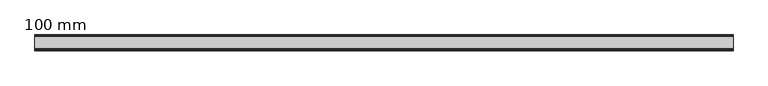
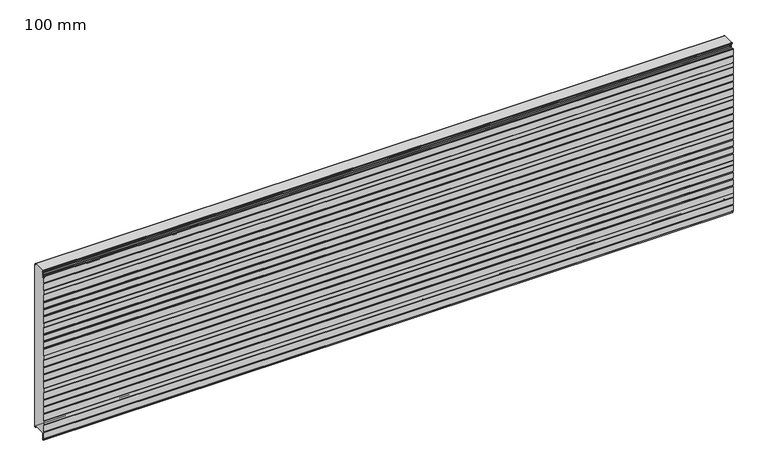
"""IFC4 building model written with IfcOpenShell, lengths in millimetres: plate geometry, HIANSA PANEL - H20.F02.002-PANELES DE FACHADA HORIZONTAL - PANEL PERFILADO - Panel de Muro Cortina : 100 mm."""

from ifc_helpers import new_model, si_unit, frame, origin, place, context, project, spatial, polyline, circle_curve, source, transform, mapped, element, save
from ifc_brep_helpers import plane_surface, cylinder_surface, revolved_surface, advanced_brep


def plate_100_mm_e56b490d(model_context):
    return source(origin(), model_context, "Body", "AdvancedBrep", [
        advanced_brep(
        [(-2200.0, -98.8752798, 1088.9050598), (-2200.0, -97.5170803, 1089.9655099), (-2200.0, -94.8776596, 1089.9655099), (-2200.0, -94.8776596, 1080.8), (-2200.0, -93.3776596, 1079.3), (-2200.0, -89.1276596, 1079.3), (-2200.0, -87.6276596, 1080.8), (-2200.0, -87.6276596, 1082.4013031), (-2200.0, -86.9880243, 1083.6300312), (-2200.0, -80.9305067, 1087.8715506), (-2200.0, -80.0776596, 1089.5098547), (-2200.0, -80.0776596, 1098.6062275), (-2200.0, -79.3889845, 1099.7990478), (-2200.0, -79.3889845, 1100.7990478), (-2200.0, -80.0776596, 1101.9918681), (-2200.0, -80.0776596, 1111.0896684), (-2200.0, -80.9305067, 1112.7279725), (-2200.0, -86.9880243, 1116.969492), (-2200.0, -87.6276596, 1118.19822), (-2200.0, -87.6276596, 1121.5805697), (-2200.0, -86.1276596, 1123.0805697), (-2200.0, -7.7494039, 1123.0810465), (-2200.0, -6.7486887, 1122.0803313), (-2200.0, -6.7486887, 1115.9337883), (-2200.0, -4.7472517, 1113.9323514), (-2200.0, -1.4941037, 1113.9323514), (-2200.0, -0.5, 1112.9382477), (-2200.0, -0.5, 1088.0627766), (-2200.0, -1.5005169, 1085.0504228), (-2200.0, -1.5005169, 1044.8881451), (-2200.0, -0.5, 1041.8865945), (-2200.0, -0.5, 997.0519734), (-2200.0, -1.5005169, 994.0504228), (-2200.0, -1.5005169, 953.8881451), (-2200.0, -0.5, 950.8865945), (-2200.0, -0.5, 906.0519734), (-2200.0, -1.5005169, 903.0504228), (-2200.0, -1.5005169, 862.8881451), (-2200.0, -0.5, 859.8865945), (-2200.0, -0.5, 815.0519734), (-2200.0, -1.5005169, 812.0504228), (-2200.0, -1.5005169, 771.8881451), (-2200.0, -0.5, 768.8865945), (-2200.0, -0.5, 724.0519734), (-2200.0, -1.5005169, 721.0504228), (-2200.0, -1.5005169, 680.8881451), (-2200.0, -0.5, 677.8865945), (-2200.0, -0.5, 633.0519734), (-2200.0, -1.5005169, 630.0504228), (-2200.0, -1.5005169, 589.8881451), (-2200.0, -0.5, 586.8865945), (-2200.0, -0.5, 542.0519734), (-2200.0, -1.5005169, 539.0504228), (-2200.0, -1.5005169, 498.8881451), (-2200.0, -0.5, 495.8865945), (-2200.0, -0.5, 451.0519734), (-2200.0, -1.5005169, 448.0504228), (-2200.0, -1.5005169, 407.8881451), (-2200.0, -0.5, 404.8865945), (-2200.0, -0.5, 360.0519734), (-2200.0, -1.5005169, 357.0504228), (-2200.0, -1.5005169, 316.8881451), (-2200.0, -0.5, 313.8865945), (-2200.0, -0.5, 269.0519734), (-2200.0, -1.5005169, 266.0504228), (-2200.0, -1.5005169, 225.8881451), (-2200.0, -0.5, 222.8865945), (-2200.0, -0.5, 178.0519734), (-2200.0, -1.5005169, 175.0504228), (-2200.0, -1.5005169, 134.8881451), (-2200.0, -0.5, 131.8865945), (-2200.0, -0.5, 87.0519734), (-2200.0, -1.5005169, 84.0504228), (-2200.0, -1.5005169, 43.8881451), (-2200.0, -0.5, 40.8962672), (-2200.0, -0.5, 15.9680961), (-2200.0, -1.5000258, 14.9680403), (-2200.0, -4.4999967, 14.9677262), (-2200.0, -5.5000043, 15.9677319), (-2200.0, -5.5004096, 23.5818123), (-2200.0, -7.5396439, 25.6210465), (-2200.0, -86.3470846, 25.6210465), (-2200.0, -88.8839497, 23.0841814), (-2200.0, -88.8839497, -19.2), (-2200.0, -93.6276596, -19.2), (-2200.0, -93.6276596, -10.5344901), (-2200.0, -95.1276596, -9.0344901), (-2200.0, -97.5178943, -9.0344901), (-2200.0, -98.8750825, -7.9748295), (-2200.0, -99.5, -5.4751593), (-2200.0, -99.5, 33.6239573), (-2200.0, -98.4846118, 37.6855101), (-2200.0, -99.5, 41.7470629), (-2200.0, -99.5, 84.8265935), (-2200.0, -98.5, 87.8265935), (-2200.0, -98.5, 113.1008712), (-2200.0, -99.5, 116.1008712), (-2200.0, -99.5, 159.1804017), (-2200.0, -98.4846118, 163.2419545), (-2200.0, -99.5, 167.3035073), (-2200.0, -99.5, 206.4026239), (-2200.0, -98.4846118, 210.4641767), (-2200.0, -99.5, 214.5257295), (-2200.0, -99.5, 253.6248461), (-2200.0, -98.4846118, 257.6863989), (-2200.0, -99.5, 261.7479517), (-2200.0, -99.5, 304.8274823), (-2200.0, -98.5, 307.8274823), (-2200.0, -98.5, 333.10176), (-2200.0, -99.5, 336.10176), (-2200.0, -99.5, 379.1812905), (-2200.0, -98.4846118, 383.2428433), (-2200.0, -99.5, 387.3043961), (-2200.0, -99.5, 426.4035127), (-2200.0, -98.4846118, 430.4650655), (-2200.0, -99.5, 434.5266183), (-2200.0, -99.5, 473.6257349), (-2200.0, -98.4846118, 477.6872877), (-2200.0, -99.5, 481.7488405), (-2200.0, -99.5, 524.8283711), (-2200.0, -98.5, 527.8283711), (-2200.0, -98.5, 553.1026488), (-2200.0, -99.5, 556.1026488), (-2200.0, -99.5, 599.1821793), (-2200.0, -98.4846118, 603.2437321), (-2200.0, -99.5, 607.3052849), (-2200.0, -99.5, 646.4044015), (-2200.0, -98.4846118, 650.4659543), (-2200.0, -99.5, 654.5275071), (-2200.0, -99.5, 693.6266237), (-2200.0, -98.4846118, 697.6881765), (-2200.0, -99.5, 701.7497293), (-2200.0, -99.5, 744.8292599), (-2200.0, -98.5, 747.8292599), (-2200.0, -98.5, 773.1035376), (-2200.0, -99.5, 776.1035376), (-2200.0, -99.5, 819.1830681), (-2200.0, -98.4846118, 823.2446209), (-2200.0, -99.5, 827.3061737), (-2200.0, -99.5, 866.4052903), (-2200.0, -98.4846118, 870.4668431), (-2200.0, -99.5, 874.5283959), (-2200.0, -99.5, 913.6275125), (-2200.0, -98.4846118, 917.6890653), (-2200.0, -99.5, 921.7506181), (-2200.0, -99.5, 964.8301487), (-2200.0, -98.5, 967.8301487), (-2200.0, -98.5, 993.1044264), (-2200.0, -99.5, 996.1044264), (-2200.0, -99.5, 1039.1839569), (-2200.0, -98.4846118, 1043.2455097), (-2200.0, -99.5, 1047.3070625), (-2200.0, -99.5, 1086.4061791), (2200.0, -98.8752798, 1088.9050598), (2200.0, -99.5, 1086.4061791), (2200.0, -99.5, 1047.3070625), (2200.0, -98.4846118, 1043.2455097), (2200.0, -99.5, 1039.1839569), (2200.0, -99.5, 996.1044264), (2200.0, -98.5, 993.1044264), (2200.0, -98.5, 967.8301487), (2200.0, -99.5, 964.8301487), (2200.0, -99.5, 921.7506181), (2200.0, -98.4846118, 917.6890653), (2200.0, -99.5, 913.6275125), (2200.0, -99.5, 874.5283959), (2200.0, -98.4846118, 870.4668431), (2200.0, -99.5, 866.4052903), (2200.0, -99.5, 827.3061737), (2200.0, -98.4846118, 823.2446209), (2200.0, -99.5, 819.1830681), (2200.0, -99.5, 776.1035376), (2200.0, -98.5, 773.1035376), (2200.0, -98.5, 747.8292599), (2200.0, -99.5, 744.8292599), (2200.0, -99.5, 701.7497293), (2200.0, -98.4846118, 697.6881765), (2200.0, -99.5, 693.6266237), (2200.0, -99.5, 654.5275071), (2200.0, -98.4846118, 650.4659543), (2200.0, -99.5, 646.4044015), (2200.0, -99.5, 607.3052849), (2200.0, -98.4846118, 603.2437321), (2200.0, -99.5, 599.1821793), (2200.0, -99.5, 556.1026488), (2200.0, -98.5, 553.1026488), (2200.0, -98.5, 527.8283711), (2200.0, -99.5, 524.8283711), (2200.0, -99.5, 481.7488405), (2200.0, -98.4846118, 477.6872877), (2200.0, -99.5, 473.6257349), (2200.0, -99.5, 434.5266183), (2200.0, -98.4846118, 430.4650655), (2200.0, -99.5, 426.4035127), (2200.0, -99.5, 387.3043961), (2200.0, -98.4846118, 383.2428433), (2200.0, -99.5, 379.1812905), (2200.0, -99.5, 336.10176), (2200.0, -98.5, 333.10176), (2200.0, -98.5, 307.8274823), (2200.0, -99.5, 304.8274823), (2200.0, -99.5, 261.7479517), (2200.0, -98.4846118, 257.6863989), (2200.0, -99.5, 253.6248461), (2200.0, -99.5, 214.5257295), (2200.0, -98.4846118, 210.4641767), (2200.0, -99.5, 206.4026239), (2200.0, -99.5, 167.3035073), (2200.0, -98.4846118, 163.2419545), (2200.0, -99.5, 159.1804017), (2200.0, -99.5, 116.1008712), (2200.0, -98.5, 113.1008712), (2200.0, -98.5, 87.8265935), (2200.0, -99.5, 84.8265935), (2200.0, -99.5, 41.7470629), (2200.0, -98.4846118, 37.6855101), (2200.0, -99.5, 33.6239573), (2200.0, -99.5, -5.4751593), (2200.0, -98.8750825, -7.9748295), (2200.0, -97.5178943, -9.0344901), (2200.0, -95.1276596, -9.0344901), (2200.0, -93.6276596, -10.5344901), (2200.0, -93.6276596, -19.2), (2200.0, -88.8839497, -19.2), (2200.0, -88.8839497, 23.0841814), (2200.0, -86.3470846, 25.6210465), (2200.0, -7.5396439, 25.6210465), (2200.0, -5.5004096, 23.5818123), (2200.0, -5.5004096, 15.9677319), (2200.0, -4.4999967, 14.9677262), (2200.0, -1.5000258, 14.9680403), (2200.0, -0.5, 15.9680961), (2200.0, -0.5, 40.8962672), (2200.0, -1.5005169, 43.8881451), (2200.0, -1.5005169, 84.0504228), (2200.0, -0.5, 87.0519734), (2200.0, -0.5, 131.8865945), (2200.0, -1.5005169, 134.8881451), (2200.0, -1.5005169, 175.0504228), (2200.0, -0.5, 178.0519734), (2200.0, -0.5, 222.8865945), (2200.0, -1.5005169, 225.8881451), (2200.0, -1.5005169, 266.0504228), (2200.0, -0.5, 269.0519734), (2200.0, -0.5, 313.8865945), (2200.0, -1.5005169, 316.8881451), (2200.0, -1.5005169, 357.0504228), (2200.0, -0.5, 360.0519734), (2200.0, -0.5, 404.8865945), (2200.0, -1.5005169, 407.8881451), (2200.0, -1.5005169, 448.0504228), (2200.0, -0.5, 451.0519734), (2200.0, -0.5, 495.8865945), (2200.0, -1.5005169, 498.8881451), (2200.0, -1.5005169, 539.0504228), (2200.0, -0.5, 542.0519734), (2200.0, -0.5, 586.8865945), (2200.0, -1.5005169, 589.8881451), (2200.0, -1.5005169, 630.0504228), (2200.0, -0.5, 633.0519734), (2200.0, -0.5, 677.8865945), (2200.0, -1.5005169, 680.8881451), (2200.0, -1.5005169, 721.0504228), (2200.0, -0.5, 724.0519734), (2200.0, -0.5, 768.8865945), (2200.0, -1.5005169, 771.8881451), (2200.0, -1.5005169, 812.0504228), (2200.0, -0.5, 815.0519734), (2200.0, -0.5, 859.8865945), (2200.0, -1.5005169, 862.8881451), (2200.0, -1.5005169, 903.0504228), (2200.0, -0.5, 906.0519734), (2200.0, -0.5, 950.8865945), (2200.0, -1.5005169, 953.8881451), (2200.0, -1.5005169, 994.0504228), (2200.0, -0.5, 997.0519734), (2200.0, -0.5, 1041.8865945), (2200.0, -1.5005169, 1044.8881451), (2200.0, -1.5005169, 1085.0504228), (2200.0, -0.5, 1088.0627766), (2200.0, -0.5, 1112.9382477), (2200.0, -1.4941037, 1113.9323514), (2200.0, -4.7472517, 1113.9323514), (2200.0, -6.7486887, 1115.9337883), (2200.0, -6.7486887, 1122.0803313), (2200.0, -7.7494039, 1123.0810465), (2200.0, -86.1276596, 1123.0810465), (2200.0, -87.6276596, 1121.5805697), (2200.0, -87.6276596, 1118.19822), (2200.0, -86.9880243, 1116.969492), (2200.0, -80.9305067, 1112.7279725), (2200.0, -80.0776596, 1111.0896684), (2200.0, -80.0776596, 1101.9918681), (2200.0, -79.3889845, 1100.7990478), (2200.0, -79.3889845, 1099.7990478), (2200.0, -80.0776596, 1098.6062275), (2200.0, -80.0776596, 1089.5098547), (2200.0, -80.9305067, 1087.8715506), (2200.0, -86.9880243, 1083.6300312), (2200.0, -87.6276596, 1082.4013031), (2200.0, -87.6276596, 1080.8), (2200.0, -89.1276596, 1079.3), (2200.0, -93.3776596, 1079.3), (2200.0, -94.8776596, 1080.8), (2200.0, -94.8776596, 1089.9655099), (2200.0, -97.5170803, 1089.9655099)],
        [
            (0, 1, circle_curve(frame((-2200.0, -97.5170803, 1088.5655099), z_axis=(-1.0, 0.0, 0.0), x_axis=(0.0, 0.0, 1.0)), 1.4)),
            (1, 2),
            (2, 3),
            (3, 4, circle_curve(frame((-2200.0, -93.3776596, 1080.8), z_axis=(1.0, 0.0, 0.0), x_axis=(0.0, 0.0, 1.0)), 1.5)),
            (4, 5),
            (5, 6, circle_curve(frame((-2200.0, -89.1276596, 1080.8), z_axis=(1.0, 0.0, 0.0), x_axis=(0.0, 0.0, 1.0)), 1.5)),
            (6, 7),
            (7, 8, circle_curve(frame((-2200.0, -86.1276596, 1082.4013031), z_axis=(-1.0, 0.0, 0.0), x_axis=(0.0, 0.0, 1.0)), 1.5)),
            (8, 9),
            (9, 10, circle_curve(frame((-2200.0, -82.0776596, 1089.5098547), z_axis=(1.0, 0.0, 0.0), x_axis=(0.0, 0.0, 1.0)), 2.0)),
            (10, 11),
            (11, 12),
            (12, 13, circle_curve(frame((-2200.0, -80.2550099, 1100.2990478), z_axis=(1.0, 0.0, 0.0), x_axis=(0.0, 0.0, 1.0)), 1.0)),
            (13, 14),
            (14, 15),
            (15, 16, circle_curve(frame((-2200.0, -82.0776596, 1111.0896684), z_axis=(1.0, 0.0, 0.0), x_axis=(0.0, 0.0, 1.0)), 2.0)),
            (16, 17),
            (17, 18, circle_curve(frame((-2200.0, -86.1276596, 1118.19822), z_axis=(-1.0, 0.0, 0.0), x_axis=(0.0, 0.0, 1.0)), 1.5)),
            (18, 19),
            (19, 20, circle_curve(frame((-2200.0, -86.1276596, 1121.5805697), z_axis=(-1.0, 0.0, 0.0), x_axis=(0.0, 0.0, 1.0)), 1.5)),
            (20, 21),
            (21, 22, circle_curve(frame((-2200.0, -7.7494039, 1122.0803313), z_axis=(-1.0, 0.0, 0.0), x_axis=(0.0, 0.0, 1.0)), 1.0007153)),
            (22, 23),
            (23, 24, circle_curve(frame((-2200.0, -4.7472517, 1115.9337883), z_axis=(1.0, 0.0, 0.0), x_axis=(0.0, 0.0, 1.0)), 2.0014369)),
            (24, 25),
            (25, 26, circle_curve(frame((-2200.0, -1.4941037, 1112.9382477), z_axis=(-1.0, 0.0, 0.0), x_axis=(0.0, 0.0, 1.0)), 0.9941037)),
            (26, 27),
            (27, 28),
            (28, 29),
            (29, 30),
            (30, 31),
            (31, 32),
            (32, 33),
            (33, 34),
            (34, 35),
            (35, 36),
            (36, 37),
            (37, 38),
            (38, 39),
            (39, 40),
            (40, 41),
            (41, 42),
            (42, 43),
            (43, 44),
            (44, 45),
            (45, 46),
            (46, 47),
            (47, 48),
            (48, 49),
            (49, 50),
            (50, 51),
            (51, 52),
            (52, 53),
            (53, 54),
            (54, 55),
            (55, 56),
            (56, 57),
            (57, 58),
            (58, 59),
            (59, 60),
            (60, 61),
            (61, 62),
            (62, 63),
            (63, 64),
            (64, 65),
            (65, 66),
            (66, 67),
            (67, 68),
            (68, 69),
            (69, 70),
            (70, 71),
            (71, 72),
            (72, 73),
            (73, 74),
            (74, 75),
            (75, 76, circle_curve(frame((-2200.0, -1.5000558, 15.9680961), z_axis=(-1.0, 0.0, 0.0), x_axis=(0.0, 0.0, 1.0)), 1.0000558)),
            (76, 77),
            (77, 78, circle_curve(frame((-2200.0, -4.4999986, 15.9677319), z_axis=(-1.0, 0.0, 0.0), x_axis=(0.0, 0.0, 1.0)), 1.0000057)),
            (78, 79),
            (79, 80, circle_curve(frame((-2200.0, -7.5396439, 23.5818123), z_axis=(1.0, 0.0, 0.0), x_axis=(0.0, 0.0, 1.0)), 2.0392343)),
            (80, 81),
            (81, 82, circle_curve(frame((-2200.0, -86.3470846, 23.0841814), z_axis=(1.0, 0.0, 0.0), x_axis=(0.0, 0.0, 1.0)), 2.5368651)),
            (82, 83),
            (83, 84),
            (84, 85),
            (85, 86, circle_curve(frame((-2200.0, -95.1276596, -10.5344901), z_axis=(1.0, 0.0, 0.0), x_axis=(0.0, 0.0, 1.0)), 1.5)),
            (86, 87),
            (87, 88, circle_curve(frame((-2200.0, -97.5178943, -7.6355325), z_axis=(-1.0, 0.0, 0.0), x_axis=(0.0, 0.0, 1.0)), 1.3989576)),
            (88, 89),
            (89, 90),
            (90, 91),
            (91, 92),
            (92, 93),
            (93, 94),
            (94, 95),
            (95, 96),
            (96, 97),
            (97, 98),
            (98, 99),
            (99, 100),
            (100, 101),
            (101, 102),
            (102, 103),
            (103, 104),
            (104, 105),
            (105, 106),
            (106, 107),
            (107, 108),
            (108, 109),
            (109, 110),
            (110, 111),
            (111, 112),
            (112, 113),
            (113, 114),
            (114, 115),
            (115, 116),
            (116, 117),
            (117, 118),
            (118, 119),
            (119, 120),
            (120, 121),
            (121, 122),
            (122, 123),
            (123, 124),
            (124, 125),
            (125, 126),
            (126, 127),
            (127, 128),
            (128, 129),
            (129, 130),
            (130, 131),
            (131, 132),
            (132, 133),
            (133, 134),
            (134, 135),
            (135, 136),
            (136, 137),
            (137, 138),
            (138, 139),
            (139, 140),
            (140, 141),
            (141, 142),
            (142, 143),
            (143, 144),
            (144, 145),
            (145, 146),
            (146, 147),
            (147, 148),
            (148, 149),
            (149, 150),
            (150, 151),
            (151, 152),
            (152, 0),
            (153, 154),
            (154, 155),
            (155, 156),
            (156, 157),
            (157, 158),
            (158, 159),
            (159, 160),
            (160, 161),
            (161, 162),
            (162, 163),
            (163, 164),
            (164, 165),
            (165, 166),
            (166, 167),
            (167, 168),
            (168, 169),
            (169, 170),
            (170, 171),
            (171, 172),
            (172, 173),
            (173, 174),
            (174, 175),
            (175, 176),
            (176, 177),
            (177, 178),
            (178, 179),
            (179, 180),
            (180, 181),
            (181, 182),
            (182, 183),
            (183, 184),
            (184, 185),
            (185, 186),
            (186, 187),
            (187, 188),
            (188, 189),
            (189, 190),
            (190, 191),
            (191, 192),
            (192, 193),
            (193, 194),
            (194, 195),
            (195, 196),
            (196, 197),
            (197, 198),
            (198, 199),
            (199, 200),
            (200, 201),
            (201, 202),
            (202, 203),
            (203, 204),
            (204, 205),
            (205, 206),
            (206, 207),
            (207, 208),
            (208, 209),
            (209, 210),
            (210, 211),
            (211, 212),
            (212, 213),
            (213, 214),
            (214, 215),
            (215, 216),
            (216, 217),
            (217, 218),
            (218, 219, circle_curve(frame((2200.0, -97.5178943, -7.6355325), z_axis=(1.0, 0.0, 0.0), x_axis=(0.0, 0.0, 1.0)), 1.3989576)),
            (219, 220),
            (220, 221, circle_curve(frame((2200.0, -95.1276596, -10.5344901), z_axis=(-1.0, 0.0, 0.0), x_axis=(0.0, 0.0, 1.0)), 1.5)),
            (221, 222),
            (222, 223),
            (223, 224),
            (224, 225, circle_curve(frame((2200.0, -86.3470846, 23.0841814), z_axis=(-1.0, 0.0, 0.0), x_axis=(0.0, 0.0, 1.0)), 2.5368651)),
            (225, 226),
            (226, 227, circle_curve(frame((2200.0, -7.5396439, 23.5818123), z_axis=(-1.0, 0.0, 0.0), x_axis=(0.0, 0.0, 1.0)), 2.0392343)),
            (227, 228),
            (228, 229, circle_curve(frame((2200.0, -4.4999986, 15.9677319), z_axis=(1.0, 0.0, 0.0), x_axis=(0.0, 0.0, 1.0)), 1.0000057)),
            (229, 230),
            (230, 231, circle_curve(frame((2200.0, -1.5000558, 15.9680961), z_axis=(1.0, 0.0, 0.0), x_axis=(0.0, 0.0, 1.0)), 1.0000558)),
            (231, 232),
            (232, 233),
            (233, 234),
            (234, 235),
            (235, 236),
            (236, 237),
            (237, 238),
            (238, 239),
            (239, 240),
            (240, 241),
            (241, 242),
            (242, 243),
            (243, 244),
            (244, 245),
            (245, 246),
            (246, 247),
            (247, 248),
            (248, 249),
            (249, 250),
            (250, 251),
            (251, 252),
            (252, 253),
            (253, 254),
            (254, 255),
            (255, 256),
            (256, 257),
            (257, 258),
            (258, 259),
            (259, 260),
            (260, 261),
            (261, 262),
            (262, 263),
            (263, 264),
            (264, 265),
            (265, 266),
            (266, 267),
            (267, 268),
            (268, 269),
            (269, 270),
            (270, 271),
            (271, 272),
            (272, 273),
            (273, 274),
            (274, 275),
            (275, 276),
            (276, 277),
            (277, 278),
            (278, 279),
            (279, 280),
            (280, 281, circle_curve(frame((2200.0, -1.4941037, 1112.9382477), z_axis=(1.0, 0.0, 0.0), x_axis=(0.0, 0.0, 1.0)), 0.9941037)),
            (281, 282),
            (282, 283, circle_curve(frame((2200.0, -4.7472517, 1115.9337883), z_axis=(-1.0, 0.0, 0.0), x_axis=(0.0, 0.0, 1.0)), 2.0014369)),
            (283, 284),
            (284, 285, circle_curve(frame((2200.0, -7.7494039, 1122.0803313), z_axis=(1.0, 0.0, 0.0), x_axis=(0.0, 0.0, 1.0)), 1.0007153)),
            (285, 286),
            (286, 287, circle_curve(frame((2200.0, -86.1276596, 1121.5805697), z_axis=(1.0, 0.0, 0.0), x_axis=(0.0, 0.0, 1.0)), 1.5)),
            (287, 288),
            (288, 289, circle_curve(frame((2200.0, -86.1276596, 1118.19822), z_axis=(1.0, 0.0, 0.0), x_axis=(0.0, 0.0, 1.0)), 1.5)),
            (289, 290),
            (290, 291, circle_curve(frame((2200.0, -82.0776596, 1111.0896684), z_axis=(-1.0, 0.0, 0.0), x_axis=(0.0, 0.0, 1.0)), 2.0)),
            (291, 292),
            (292, 293),
            (293, 294, circle_curve(frame((2200.0, -80.2550099, 1100.2990478), z_axis=(-1.0, 0.0, 0.0), x_axis=(0.0, 0.0, 1.0)), 1.0)),
            (294, 295),
            (295, 296),
            (296, 297, circle_curve(frame((2200.0, -82.0776596, 1089.5098547), z_axis=(-1.0, 0.0, 0.0), x_axis=(0.0, 0.0, 1.0)), 2.0)),
            (297, 298),
            (298, 299, circle_curve(frame((2200.0, -86.1276596, 1082.4013031), z_axis=(1.0, 0.0, 0.0), x_axis=(0.0, 0.0, 1.0)), 1.5)),
            (299, 300),
            (300, 301, circle_curve(frame((2200.0, -89.1276596, 1080.8), z_axis=(-1.0, 0.0, 0.0), x_axis=(0.0, 0.0, 1.0)), 1.5)),
            (301, 302),
            (302, 303, circle_curve(frame((2200.0, -93.3776596, 1080.8), z_axis=(-1.0, 0.0, 0.0), x_axis=(0.0, 0.0, 1.0)), 1.5)),
            (303, 304),
            (304, 305),
            (305, 153, circle_curve(frame((2200.0, -97.5170803, 1088.5655099), z_axis=(1.0, 0.0, 0.0), x_axis=(0.0, 0.0, 1.0)), 1.4)),
            (147, 159),
            (158, 148),
            (146, 160),
            (145, 161),
            (144, 162),
            (143, 163),
            (142, 164),
            (141, 165),
            (140, 166),
            (139, 167),
            (138, 168),
            (137, 169),
            (136, 170),
            (135, 171),
            (134, 172),
            (133, 173),
            (132, 174),
            (131, 175),
            (130, 176),
            (129, 177),
            (128, 178),
            (127, 179),
            (126, 180),
            (125, 181),
            (124, 182),
            (123, 183),
            (122, 184),
            (121, 185),
            (120, 186),
            (119, 187),
            (118, 188),
            (117, 189),
            (116, 190),
            (115, 191),
            (114, 192),
            (113, 193),
            (112, 194),
            (111, 195),
            (110, 196),
            (109, 197),
            (108, 198),
            (107, 199),
            (106, 200),
            (105, 201),
            (104, 202),
            (103, 203),
            (102, 204),
            (101, 205),
            (100, 206),
            (99, 207),
            (98, 208),
            (97, 209),
            (96, 210),
            (95, 211),
            (94, 212),
            (93, 213),
            (92, 214),
            (91, 215),
            (90, 216),
            (89, 217),
            (88, 218),
            (87, 219),
            (86, 220),
            (85, 221),
            (84, 222),
            (83, 223),
            (82, 224),
            (81, 225),
            (80, 226),
            (79, 227),
            (78, 228),
            (74, 232),
            (231, 75),
            (73, 233),
            (72, 234),
            (71, 235),
            (70, 236),
            (69, 237),
            (68, 238),
            (67, 239),
            (66, 240),
            (65, 241),
            (64, 242),
            (63, 243),
            (62, 244),
            (61, 245),
            (60, 246),
            (59, 247),
            (58, 248),
            (57, 249),
            (56, 250),
            (55, 251),
            (54, 252),
            (53, 253),
            (52, 254),
            (51, 255),
            (50, 256),
            (49, 257),
            (48, 258),
            (47, 259),
            (46, 260),
            (45, 261),
            (44, 262),
            (43, 263),
            (42, 264),
            (41, 265),
            (40, 266),
            (39, 267),
            (38, 268),
            (37, 269),
            (36, 270),
            (35, 271),
            (34, 272),
            (33, 273),
            (32, 274),
            (31, 275),
            (30, 276),
            (152, 154),
            (153, 0),
            (151, 155),
            (150, 156),
            (149, 157),
            (29, 277),
            (28, 278),
            (27, 279),
            (26, 280),
            (25, 281),
            (24, 282),
            (23, 283),
            (22, 284),
            (21, 285),
            (20, 286),
            (19, 287),
            (18, 288),
            (17, 289),
            (16, 290),
            (15, 291),
            (9, 297),
            (296, 10),
            (8, 298),
            (7, 299),
            (6, 300),
            (5, 301),
            (4, 302),
            (3, 303),
            (2, 304),
            (1, 305),
            (14, 292),
            (13, 293),
            (12, 294),
            (11, 295),
            (77, 229),
            (76, 230),
        ],
        [
            plane_surface(frame((-2200.0, 0.0, 0.0), z_axis=(-1.0, 0.0, 0.0), x_axis=(0.0, 0.0, 1.0))),
            plane_surface(frame((2200.0, 0.0, 0.0), z_axis=(1.0, 0.0, 0.0), x_axis=(0.0, 0.0, 1.0))),
            plane_surface(frame((-2200.0, -99.5, 996.1044264), z_axis=(0.0, -0.9486832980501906, -0.3162277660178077), x_axis=(1.0, 0.0, 0.0))),
            plane_surface(frame((-2200.0, -98.5, 993.1044264), z_axis=(0.0, -1.0, 0.0), x_axis=(1.0, 0.0, 0.0))),
            plane_surface(frame((-2200.0, -98.5, 967.8301487), z_axis=(0.0, -0.948683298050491, 0.3162277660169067), x_axis=(1.0, 0.0, 0.0))),
            plane_surface(frame((-2200.0, -99.5, 964.8301487), z_axis=(0.0, -1.0, 0.0), x_axis=(1.0, 0.0, 0.0))),
            plane_surface(frame((-2200.0, -99.5, 921.7506181), z_axis=(0.0, -0.9701425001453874, -0.24253562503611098), x_axis=(1.0, 0.0, 0.0))),
            plane_surface(frame((-2200.0, -98.4846118, 917.6890653), z_axis=(0.0, -0.9701425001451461, 0.24253562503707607), x_axis=(1.0, 0.0, 0.0))),
            plane_surface(frame((-2200.0, -99.5, 913.6275125), z_axis=(0.0, -1.0, 0.0), x_axis=(1.0, 0.0, 0.0))),
            plane_surface(frame((-2200.0, -99.5, 874.5283959), z_axis=(0.0, -0.9701425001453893, -0.2425356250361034), x_axis=(1.0, 0.0, 0.0))),
            plane_surface(frame((-2200.0, -98.4846118, 870.4668431), z_axis=(0.0, -0.9701425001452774, 0.24253562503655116), x_axis=(1.0, 0.0, 0.0))),
            plane_surface(frame((-2200.0, -99.5, 866.4052903), z_axis=(0.0, -1.0, 0.0), x_axis=(1.0, 0.0, 0.0))),
            plane_surface(frame((-2200.0, -99.5, 827.3061737), z_axis=(0.0, -0.9701425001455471, -0.242535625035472), x_axis=(1.0, 0.0, 0.0))),
            plane_surface(frame((-2200.0, -98.4846118, 823.2446209), z_axis=(0.0, -0.9701425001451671, 0.2425356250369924), x_axis=(1.0, 0.0, 0.0))),
            plane_surface(frame((-2200.0, -99.5, 819.1830681), z_axis=(0.0, -1.0, 0.0), x_axis=(1.0, 0.0, 0.0))),
            plane_surface(frame((-2200.0, -99.5, 776.1035376), z_axis=(0.0, -0.9486832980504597, -0.3162277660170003), x_axis=(1.0, 0.0, 0.0))),
            plane_surface(frame((-2200.0, -98.5, 773.1035376), z_axis=(0.0, -1.0, 0.0), x_axis=(1.0, 0.0, 0.0))),
            plane_surface(frame((-2200.0, -98.5, 747.8292599), z_axis=(0.0, -0.948683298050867, 0.3162277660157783), x_axis=(1.0, 0.0, 0.0))),
            plane_surface(frame((-2200.0, -99.5, 744.8292599), z_axis=(0.0, -1.0, 0.0), x_axis=(1.0, 0.0, 0.0))),
            plane_surface(frame((-2200.0, -99.5, 701.7497293), z_axis=(0.0, -0.9701425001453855, -0.2425356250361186), x_axis=(1.0, 0.0, 0.0))),
            plane_surface(frame((-2200.0, -98.4846118, 697.6881765), z_axis=(0.0, -0.9701425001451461, 0.24253562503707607), x_axis=(1.0, 0.0, 0.0))),
            plane_surface(frame((-2200.0, -99.5, 693.6266237), z_axis=(0.0, -1.0, 0.0), x_axis=(1.0, 0.0, 0.0))),
            plane_surface(frame((-2200.0, -99.5, 654.5275071), z_axis=(0.0, -0.9701425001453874, -0.24253562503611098), x_axis=(1.0, 0.0, 0.0))),
            plane_surface(frame((-2200.0, -98.4846118, 650.4659543), z_axis=(0.0, -0.9701425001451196, 0.24253562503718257), x_axis=(1.0, 0.0, 0.0))),
            plane_surface(frame((-2200.0, -99.5, 646.4044015), z_axis=(0.0, -1.0, 0.0), x_axis=(1.0, 0.0, 0.0))),
            plane_surface(frame((-2200.0, -99.5, 607.3052849), z_axis=(0.0, -0.9701425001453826, -0.24253562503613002), x_axis=(1.0, 0.0, 0.0))),
            plane_surface(frame((-2200.0, -98.4846118, 603.2437321), z_axis=(0.0, -0.9701425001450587, 0.242535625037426), x_axis=(1.0, 0.0, 0.0))),
            plane_surface(frame((-2200.0, -99.5, 599.1821793), z_axis=(0.0, -1.0, 0.0), x_axis=(1.0, 0.0, 0.0))),
            plane_surface(frame((-2200.0, -99.5, 556.1026488), z_axis=(0.0, -0.9486832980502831, -0.31622776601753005), x_axis=(1.0, 0.0, 0.0))),
            plane_surface(frame((-2200.0, -98.5, 553.1026488), z_axis=(0.0, -1.0, 0.0), x_axis=(1.0, 0.0, 0.0))),
            plane_surface(frame((-2200.0, -98.5, 527.8283711), z_axis=(0.0, -0.9486832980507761, 0.3162277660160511), x_axis=(1.0, 0.0, 0.0))),
            plane_surface(frame((-2200.0, -99.5, 524.8283711), z_axis=(0.0, -1.0, 0.0), x_axis=(1.0, 0.0, 0.0))),
            plane_surface(frame((-2200.0, -99.5, 481.7488405), z_axis=(0.0, -0.9701425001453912, -0.24253562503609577), x_axis=(1.0, 0.0, 0.0))),
            plane_surface(frame((-2200.0, -98.4846118, 477.6872877), z_axis=(0.0, -0.9701425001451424, 0.24253562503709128), x_axis=(1.0, 0.0, 0.0))),
            plane_surface(frame((-2200.0, -99.5, 473.6257349), z_axis=(0.0, -1.0, 0.0), x_axis=(1.0, 0.0, 0.0))),
            plane_surface(frame((-2200.0, -99.5, 434.5266183), z_axis=(0.0, -0.9701425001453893, -0.2425356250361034), x_axis=(1.0, 0.0, 0.0))),
            plane_surface(frame((-2200.0, -98.4846118, 430.4650655), z_axis=(0.0, -0.9701425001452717, 0.24253562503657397), x_axis=(1.0, 0.0, 0.0))),
            plane_surface(frame((-2200.0, -99.5, 426.4035127), z_axis=(0.0, -1.0, 0.0), x_axis=(1.0, 0.0, 0.0))),
            plane_surface(frame((-2200.0, -99.5, 387.3043961), z_axis=(0.0, -0.9701425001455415, -0.2425356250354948), x_axis=(1.0, 0.0, 0.0))),
            plane_surface(frame((-2200.0, -98.4846118, 383.2428433), z_axis=(0.0, -0.9701425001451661, 0.2425356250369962), x_axis=(1.0, 0.0, 0.0))),
            plane_surface(frame((-2200.0, -99.5, 379.1812905), z_axis=(0.0, -1.0, 0.0), x_axis=(1.0, 0.0, 0.0))),
            plane_surface(frame((-2200.0, -99.5, 336.10176), z_axis=(0.0, -0.948683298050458, -0.31622776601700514), x_axis=(1.0, 0.0, 0.0))),
            plane_surface(frame((-2200.0, -98.5, 333.10176), z_axis=(0.0, -1.0, 0.0), x_axis=(1.0, 0.0, 0.0))),
            plane_surface(frame((-2200.0, -98.5, 307.8274823), z_axis=(0.0, -0.9486832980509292, 0.3162277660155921), x_axis=(1.0, 0.0, 0.0))),
            plane_surface(frame((-2200.0, -99.5, 304.8274823), z_axis=(0.0, -1.0, 0.0), x_axis=(1.0, 0.0, 0.0))),
            plane_surface(frame((-2200.0, -99.5, 261.7479517), z_axis=(0.0, -0.9701425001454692, -0.24253562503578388), x_axis=(1.0, 0.0, 0.0))),
            plane_surface(frame((-2200.0, -98.4846118, 257.6863989), z_axis=(0.0, -0.9701425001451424, 0.24253562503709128), x_axis=(1.0, 0.0, 0.0))),
            plane_surface(frame((-2200.0, -99.5, 253.6248461), z_axis=(0.0, -1.0, 0.0), x_axis=(1.0, 0.0, 0.0))),
            plane_surface(frame((-2200.0, -99.5, 214.5257295), z_axis=(0.0, -0.9701425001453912, -0.24253562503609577), x_axis=(1.0, 0.0, 0.0))),
            plane_surface(frame((-2200.0, -98.4846118, 210.4641767), z_axis=(0.0, -0.9701425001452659, 0.24253562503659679), x_axis=(1.0, 0.0, 0.0))),
            plane_surface(frame((-2200.0, -99.5, 206.4026239), z_axis=(0.0, -1.0, 0.0), x_axis=(1.0, 0.0, 0.0))),
            plane_surface(frame((-2200.0, -99.5, 167.3035073), z_axis=(0.0, -0.9701425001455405, -0.2425356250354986), x_axis=(1.0, 0.0, 0.0))),
            plane_surface(frame((-2200.0, -98.4846118, 163.2419545), z_axis=(0.0, -0.9701425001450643, 0.24253562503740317), x_axis=(1.0, 0.0, 0.0))),
            plane_surface(frame((-2200.0, -99.5, 159.1804017), z_axis=(0.0, -1.0, 0.0), x_axis=(1.0, 0.0, 0.0))),
            plane_surface(frame((-2200.0, -99.5, 116.1008712), z_axis=(0.0, -0.9486832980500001, -0.31622776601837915), x_axis=(1.0, 0.0, 0.0))),
            plane_surface(frame((-2200.0, -98.5, 113.1008712), z_axis=(0.0, -1.0, 0.0), x_axis=(1.0, 0.0, 0.0))),
            plane_surface(frame((-2200.0, -98.5, 87.8265935), z_axis=(0.0, -0.9486832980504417, 0.3162277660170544), x_axis=(1.0, 0.0, 0.0))),
            plane_surface(frame((-2200.0, -99.5, 84.8265935), z_axis=(0.0, -1.0, 0.0), x_axis=(1.0, 0.0, 0.0))),
            plane_surface(frame((-2200.0, -99.5, 41.7470629), z_axis=(0.0, -0.9701425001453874, -0.24253562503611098), x_axis=(1.0, 0.0, 0.0))),
            plane_surface(frame((-2200.0, -98.4846118, 37.6855101), z_axis=(0.0, -0.9701425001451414, 0.24253562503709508), x_axis=(1.0, 0.0, 0.0))),
            plane_surface(frame((-2200.0, -99.5, 33.6239573), z_axis=(0.0, -1.0, 0.0), x_axis=(1.0, 0.0, 0.0))),
            plane_surface(frame((-2200.0, -99.5, -5.4751593), z_axis=(0.0, -0.9701425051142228, -0.24253560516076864), x_axis=(1.0, 0.0, 0.0))),
            cylinder_surface(frame((-2200.0, -97.5178943, -7.6355325), z_axis=(-1.0, 0.0, 0.0), x_axis=(0.0, 0.0, 1.0)), 1.3989576),
            plane_surface(frame((-2200.0, -97.5178943, -9.0344901), z_axis=(0.0, 0.0, -1.0), x_axis=(1.0, 0.0, 0.0))),
            revolved_surface(polyline([(2200.0, -95.1276596, -9.0344901), (-2200.0, -95.1276596, -9.0344901)]), (-2200.0, -95.1276596, -10.5344901), (1.0, 0.0, 0.0)),
            plane_surface(frame((-2200.0, -93.6276596, -10.5344901), z_axis=(0.0, -1.0, 0.0), x_axis=(1.0, 0.0, 0.0))),
            plane_surface(frame((-2200.0, -93.6276596, -19.2), z_axis=(0.0, 0.0, -1.0), x_axis=(1.0, 0.0, 0.0))),
            plane_surface(frame((-2200.0, -88.8839497, -19.2), z_axis=(0.0, 1.0, 0.0), x_axis=(1.0, 0.0, 0.0))),
            revolved_surface(polyline([(2200.0, -86.3470846, 25.6210465), (-2200.0, -86.3470846, 25.6210465)]), (-2200.0, -86.3470846, 23.0841814), (1.0, 0.0, 0.0)),
            plane_surface(frame((-2200.0, -86.3470846, 25.6210465), z_axis=(0.0, 0.0, -1.0), x_axis=(1.0, 0.0, 0.0))),
            revolved_surface(polyline([(2200.0, -7.5396439, 25.6210466), (-2200.0, -7.5396439, 25.6210466)]), (-2200.0, -7.5396439, 23.5818123), (1.0, 0.0, 0.0)),
            plane_surface(frame((-2200.0, -5.5004096, 23.5818123), z_axis=(0.0, -1.0, 0.0), x_axis=(1.0, 0.0, 0.0))),
            plane_surface(frame((-2200.0, -0.5, 15.9680961), z_axis=(0.0, 1.0, 0.0), x_axis=(1.0, 0.0, 0.0))),
            plane_surface(frame((-2200.0, -0.5, 40.8962672), z_axis=(0.0, 0.9483762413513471, 0.31714744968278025), x_axis=(1.0, 0.0, 0.0))),
            plane_surface(frame((-2200.0, -1.5005169, 43.8881451), z_axis=(0.0, 1.0, 0.0), x_axis=(1.0, 0.0, 0.0))),
            plane_surface(frame((-2200.0, -1.5005169, 84.0504228), z_axis=(0.0, 0.9486832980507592, -0.3162277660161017), x_axis=(1.0, 0.0, 0.0))),
            plane_surface(frame((-2200.0, -0.5, 87.0519734), z_axis=(0.0, 1.0, 0.0), x_axis=(1.0, 0.0, 0.0))),
            plane_surface(frame((-2200.0, -0.5, 131.8865945), z_axis=(0.0, 0.948683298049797, 0.3162277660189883), x_axis=(1.0, 0.0, 0.0))),
            plane_surface(frame((-2200.0, -1.5005169, 134.8881451), z_axis=(0.0, 1.0, 0.0), x_axis=(1.0, 0.0, 0.0))),
            plane_surface(frame((-2200.0, -1.5005169, 175.0504228), z_axis=(0.0, 0.9486832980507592, -0.3162277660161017), x_axis=(1.0, 0.0, 0.0))),
            plane_surface(frame((-2200.0, -0.5, 178.0519734), z_axis=(0.0, 1.0, 0.0), x_axis=(1.0, 0.0, 0.0))),
            plane_surface(frame((-2200.0, -0.5, 222.8865945), z_axis=(0.0, 0.948683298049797, 0.3162277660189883), x_axis=(1.0, 0.0, 0.0))),
            plane_surface(frame((-2200.0, -1.5005169, 225.8881451), z_axis=(0.0, 1.0, 0.0), x_axis=(1.0, 0.0, 0.0))),
            plane_surface(frame((-2200.0, -1.5005169, 266.0504228), z_axis=(0.0, 0.9486832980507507, -0.3162277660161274), x_axis=(1.0, 0.0, 0.0))),
            plane_surface(frame((-2200.0, -0.5, 269.0519734), z_axis=(0.0, 1.0, 0.0), x_axis=(1.0, 0.0, 0.0))),
            plane_surface(frame((-2200.0, -0.5, 313.8865945), z_axis=(0.0, 0.9486832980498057, 0.31622776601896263), x_axis=(1.0, 0.0, 0.0))),
            plane_surface(frame((-2200.0, -1.5005169, 316.8881451), z_axis=(0.0, 1.0, 0.0), x_axis=(1.0, 0.0, 0.0))),
            plane_surface(frame((-2200.0, -1.5005169, 357.0504228), z_axis=(0.0, 0.9486832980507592, -0.3162277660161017), x_axis=(1.0, 0.0, 0.0))),
            plane_surface(frame((-2200.0, -0.5, 360.0519734), z_axis=(0.0, 1.0, 0.0), x_axis=(1.0, 0.0, 0.0))),
            plane_surface(frame((-2200.0, -0.5, 404.8865945), z_axis=(0.0, 0.948683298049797, 0.3162277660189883), x_axis=(1.0, 0.0, 0.0))),
            plane_surface(frame((-2200.0, -1.5005169, 407.8881451), z_axis=(0.0, 1.0, 0.0), x_axis=(1.0, 0.0, 0.0))),
            plane_surface(frame((-2200.0, -1.5005169, 448.0504228), z_axis=(0.0, 0.9486832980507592, -0.3162277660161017), x_axis=(1.0, 0.0, 0.0))),
            plane_surface(frame((-2200.0, -0.5, 451.0519734), z_axis=(0.0, 1.0, 0.0), x_axis=(1.0, 0.0, 0.0))),
            plane_surface(frame((-2200.0, -0.5, 495.8865945), z_axis=(0.0, 0.9486832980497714, 0.3162277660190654), x_axis=(1.0, 0.0, 0.0))),
            plane_surface(frame((-2200.0, -1.5005169, 498.8881451), z_axis=(0.0, 1.0, 0.0), x_axis=(1.0, 0.0, 0.0))),
            plane_surface(frame((-2200.0, -1.5005169, 539.0504228), z_axis=(0.0, 0.9486832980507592, -0.3162277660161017), x_axis=(1.0, 0.0, 0.0))),
            plane_surface(frame((-2200.0, -0.5, 542.0519734), z_axis=(0.0, 1.0, 0.0), x_axis=(1.0, 0.0, 0.0))),
            plane_surface(frame((-2200.0, -0.5, 586.8865945), z_axis=(0.0, 0.9486832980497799, 0.3162277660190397), x_axis=(1.0, 0.0, 0.0))),
            plane_surface(frame((-2200.0, -1.5005169, 589.8881451), z_axis=(0.0, 1.0, 0.0), x_axis=(1.0, 0.0, 0.0))),
            plane_surface(frame((-2200.0, -1.5005169, 630.0504228), z_axis=(0.0, 0.9486832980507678, -0.316227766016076), x_axis=(1.0, 0.0, 0.0))),
            plane_surface(frame((-2200.0, -0.5, 633.0519734), z_axis=(0.0, 1.0, 0.0), x_axis=(1.0, 0.0, 0.0))),
            plane_surface(frame((-2200.0, -0.5, 677.8865945), z_axis=(0.0, 0.9486832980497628, 0.3162277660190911), x_axis=(1.0, 0.0, 0.0))),
            plane_surface(frame((-2200.0, -1.5005169, 680.8881451), z_axis=(0.0, 1.0, 0.0), x_axis=(1.0, 0.0, 0.0))),
            plane_surface(frame((-2200.0, -1.5005169, 721.0504228), z_axis=(0.0, 0.9486832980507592, -0.3162277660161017), x_axis=(1.0, 0.0, 0.0))),
            plane_surface(frame((-2200.0, -0.5, 724.0519734), z_axis=(0.0, 1.0, 0.0), x_axis=(1.0, 0.0, 0.0))),
            plane_surface(frame((-2200.0, -0.5, 768.8865945), z_axis=(0.0, 0.9486832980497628, 0.3162277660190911), x_axis=(1.0, 0.0, 0.0))),
            plane_surface(frame((-2200.0, -1.5005169, 771.8881451), z_axis=(0.0, 1.0, 0.0), x_axis=(1.0, 0.0, 0.0))),
            plane_surface(frame((-2200.0, -1.5005169, 812.0504228), z_axis=(0.0, 0.9486832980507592, -0.3162277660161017), x_axis=(1.0, 0.0, 0.0))),
            plane_surface(frame((-2200.0, -0.5, 815.0519734), z_axis=(0.0, 1.0, 0.0), x_axis=(1.0, 0.0, 0.0))),
            plane_surface(frame((-2200.0, -0.5, 859.8865945), z_axis=(0.0, 0.9486832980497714, 0.3162277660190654), x_axis=(1.0, 0.0, 0.0))),
            plane_surface(frame((-2200.0, -1.5005169, 862.8881451), z_axis=(0.0, 1.0, 0.0), x_axis=(1.0, 0.0, 0.0))),
            plane_surface(frame((-2200.0, -1.5005169, 903.0504228), z_axis=(0.0, 0.9486832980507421, -0.3162277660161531), x_axis=(1.0, 0.0, 0.0))),
            plane_surface(frame((-2200.0, -0.5, 906.0519734), z_axis=(0.0, 1.0, 0.0), x_axis=(1.0, 0.0, 0.0))),
            plane_surface(frame((-2200.0, -0.5, 950.8865945), z_axis=(0.0, 0.9486832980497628, 0.3162277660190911), x_axis=(1.0, 0.0, 0.0))),
            plane_surface(frame((-2200.0, -1.5005169, 953.8881451), z_axis=(0.0, 1.0, 0.0), x_axis=(1.0, 0.0, 0.0))),
            plane_surface(frame((-2200.0, -1.5005169, 994.0504228), z_axis=(0.0, 0.9486832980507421, -0.3162277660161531), x_axis=(1.0, 0.0, 0.0))),
            plane_surface(frame((-2200.0, -0.5, 997.0519734), z_axis=(0.0, 1.0, 0.0), x_axis=(1.0, 0.0, 0.0))),
            plane_surface(frame((-2200.0, -98.8752798, 1088.9050598), z_axis=(0.0, -0.9701425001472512, 0.24253562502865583), x_axis=(1.0, 0.0, 0.0))),
            plane_surface(frame((-2200.0, -99.5, 1086.4061791), z_axis=(0.0, -1.0, 0.0), x_axis=(1.0, 0.0, 0.0))),
            plane_surface(frame((-2200.0, -99.5, 1047.3070625), z_axis=(0.0, -0.9701425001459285, -0.24253562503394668), x_axis=(1.0, 0.0, 0.0))),
            plane_surface(frame((-2200.0, -98.4846118, 1043.2455097), z_axis=(0.0, -0.9701425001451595, 0.2425356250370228), x_axis=(1.0, 0.0, 0.0))),
            plane_surface(frame((-2200.0, -99.5, 1039.1839569), z_axis=(0.0, -1.0, 0.0), x_axis=(1.0, 0.0, 0.0))),
            plane_surface(frame((-2200.0, -0.5, 1041.8865945), z_axis=(0.0, 0.9486832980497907, 0.3162277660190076), x_axis=(1.0, 0.0, 0.0))),
            plane_surface(frame((-2200.0, -1.5005169, 1044.8881451), z_axis=(0.0, 1.0, 0.0), x_axis=(1.0, 0.0, 0.0))),
            plane_surface(frame((-2200.0, -1.5005169, 1085.0504228), z_axis=(0.0, 0.9490230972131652, -0.31520653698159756), x_axis=(1.0, 0.0, 0.0))),
            plane_surface(frame((-2200.0, -0.5, 1088.0627766), z_axis=(0.0, 1.0, 0.0), x_axis=(1.0, 0.0, 0.0))),
            cylinder_surface(frame((-2200.0, -1.4941037, 1112.9382477), z_axis=(-1.0, 0.0, 0.0), x_axis=(0.0, 0.0, 1.0)), 0.9941037),
            plane_surface(frame((-2200.0, -1.4941037, 1113.9323514), z_axis=(0.0, 0.0, 1.0), x_axis=(1.0, 0.0, 0.0))),
            revolved_surface(polyline([(2200.0, -4.7472517, 1117.9352252), (-2200.0, -4.7472517, 1117.9352252)]), (-2200.0, -4.7472517, 1115.9337883), (1.0, 0.0, 0.0)),
            plane_surface(frame((-2200.0, -6.7486887, 1115.9337883), z_axis=(0.0, 1.0, 0.0), x_axis=(1.0, 0.0, 0.0))),
            cylinder_surface(frame((-2200.0, -7.7494039, 1122.0803313), z_axis=(-1.0, 0.0, 0.0), x_axis=(0.0, 0.0, 1.0)), 1.0007153),
            plane_surface(frame((-2200.0, -7.7494039, 1123.0810465), z_axis=(0.0, 0.0, 1.0), x_axis=(1.0, 0.0, 0.0))),
            cylinder_surface(frame((-2200.0, -86.1276596, 1121.5805697), z_axis=(-1.0, 0.0, 0.0), x_axis=(0.0, 0.0, 1.0)), 1.5),
            plane_surface(frame((-2200.0, -87.6276596, 1121.5805697), z_axis=(0.0, -1.0, 0.0), x_axis=(1.0, 0.0, 0.0))),
            cylinder_surface(frame((-2200.0, -86.1276596, 1118.19822), z_axis=(-1.0, 0.0, 0.0), x_axis=(0.0, 0.0, 1.0)), 1.5),
            plane_surface(frame((-2200.0, -86.9880243, 1116.969492), z_axis=(0.0, -0.5735764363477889, -0.8191520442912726), x_axis=(1.0, 0.0, 0.0))),
            revolved_surface(polyline([(2200.0, -82.0776596, 1113.0896684), (-2200.0, -82.0776596, 1113.0896684)]), (-2200.0, -82.0776596, 1111.0896684), (1.0, 0.0, 0.0)),
            revolved_surface(polyline([(2200.0, -82.0776596, 1091.5098547), (-2200.0, -82.0776596, 1091.5098547)]), (-2200.0, -82.0776596, 1089.5098547), (1.0, 0.0, 0.0)),
            plane_surface(frame((-2200.0, -80.9305067, 1087.8715506), z_axis=(0.0, -0.5735764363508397, 0.8191520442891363), x_axis=(1.0, 0.0, 0.0))),
            cylinder_surface(frame((-2200.0, -86.1276596, 1082.4013031), z_axis=(-1.0, 0.0, 0.0), x_axis=(0.0, 0.0, 1.0)), 1.5),
            plane_surface(frame((-2200.0, -87.6276596, 1082.4013031), z_axis=(0.0, -1.0, 0.0), x_axis=(1.0, 0.0, 0.0))),
            revolved_surface(polyline([(2200.0, -89.1276596, 1082.3), (-2200.0, -89.1276596, 1082.3)]), (-2200.0, -89.1276596, 1080.8), (1.0, 0.0, 0.0)),
            plane_surface(frame((-2200.0, -89.1276596, 1079.3), z_axis=(0.0, 0.0, 1.0), x_axis=(1.0, 0.0, 0.0))),
            revolved_surface(polyline([(2200.0, -93.3776596, 1082.3), (-2200.0, -93.3776596, 1082.3)]), (-2200.0, -93.3776596, 1080.8), (1.0, 0.0, 0.0)),
            plane_surface(frame((-2200.0, -94.8776596, 1080.8), z_axis=(0.0, 1.0, 0.0), x_axis=(1.0, 0.0, 0.0))),
            plane_surface(frame((-2200.0, -94.8776596, 1089.9655099), z_axis=(0.0, 0.0, 1.0), x_axis=(1.0, 0.0, 0.0))),
            cylinder_surface(frame((-2200.0, -97.5170803, 1088.5655099), z_axis=(-1.0, 0.0, 0.0), x_axis=(0.0, 0.0, 1.0)), 1.4),
            plane_surface(frame((-2200.0, -80.0776596, 1111.0896684), z_axis=(0.0, -1.0, 0.0), x_axis=(1.0, 0.0, 0.0))),
            plane_surface(frame((-2200.0, -80.0776596, 1101.9918681), z_axis=(0.0, -0.8660254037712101, -0.5000000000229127), x_axis=(1.0, 0.0, 0.0))),
            revolved_surface(polyline([(2200.0, -80.2550099, 1101.2990478), (-2200.0, -80.2550099, 1101.2990478)]), (-2200.0, -80.2550099, 1100.2990478), (1.0, 0.0, 0.0)),
            plane_surface(frame((-2200.0, -79.3889845, 1099.7990478), z_axis=(0.0, -0.8660254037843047, 0.5000000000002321), x_axis=(1.0, 0.0, 0.0))),
            plane_surface(frame((-2200.0, -80.0776596, 1098.6062275), z_axis=(0.0, -1.0, 0.0), x_axis=(1.0, 0.0, 0.0))),
            cylinder_surface(frame((-2200.0, -4.4999986, 15.9677319), z_axis=(-1.0, 0.0, 0.0), x_axis=(0.0, 0.0, 1.0)), 1.0000057),
            plane_surface(frame((-2200.0, -4.4999967, 14.9677262), z_axis=(0.0, 0.00010468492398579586, -0.9999999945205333), x_axis=(1.0, 0.0, 0.0))),
            cylinder_surface(frame((-2200.0, -1.5000558, 15.9680961), z_axis=(-1.0, 0.0, 0.0), x_axis=(0.0, 0.0, 1.0)), 1.0000558),
        ],
        [
            (0, [[1, 2, 3, 4, 5, 6, 7, 8, 9, 10, 11, 12, 13, 14, 15, 16, 17, 18, 19, 20, 21, 22, 23, 24, 25, 26, 27, 28, 29, 30, 31, 32, 33, 34, 35, 36, 37, 38, 39, 40, 41, 42, 43, 44, 45, 46, 47, 48, 49, 50, 51, 52, 53, 54, 55, 56, 57, 58, 59, 60, 61, 62, 63, 64, 65, 66, 67, 68, 69, 70, 71, 72, 73, 74, 75, 76, 77, 78, 79, 80, 81, 82, 83, 84, 85, 86, 87, 88, 89, 90, 91, 92, 93, 94, 95, 96, 97, 98, 99, 100, 101, 102, 103, 104, 105, 106, 107, 108, 109, 110, 111, 112, 113, 114, 115, 116, 117, 118, 119, 120, 121, 122, 123, 124, 125, 126, 127, 128, 129, 130, 131, 132, 133, 134, 135, 136, 137, 138, 139, 140, 141, 142, 143, 144, 145, 146, 147, 148, 149, 150, 151, 152, 153]]),
            (1, [[154, 155, 156, 157, 158, 159, 160, 161, 162, 163, 164, 165, 166, 167, 168, 169, 170, 171, 172, 173, 174, 175, 176, 177, 178, 179, 180, 181, 182, 183, 184, 185, 186, 187, 188, 189, 190, 191, 192, 193, 194, 195, 196, 197, 198, 199, 200, 201, 202, 203, 204, 205, 206, 207, 208, 209, 210, 211, 212, 213, 214, 215, 216, 217, 218, 219, 220, 221, 222, 223, 224, 225, 226, 227, 228, 229, 230, 231, 232, 233, 234, 235, 236, 237, 238, 239, 240, 241, 242, 243, 244, 245, 246, 247, 248, 249, 250, 251, 252, 253, 254, 255, 256, 257, 258, 259, 260, 261, 262, 263, 264, 265, 266, 267, 268, 269, 270, 271, 272, 273, 274, 275, 276, 277, 278, 279, 280, 281, 282, 283, 284, 285, 286, 287, 288, 289, 290, 291, 292, 293, 294, 295, 296, 297, 298, 299, 300, 301, 302, 303, 304, 305, 306]]),
            (2, [[307, -159, 308, -148]]),
            (3, [[309, -160, -307, -147]]),
            (4, [[310, -161, -309, -146]]),
            (5, [[311, -162, -310, -145]]),
            (6, [[312, -163, -311, -144]]),
            (7, [[313, -164, -312, -143]]),
            (8, [[314, -165, -313, -142]]),
            (9, [[315, -166, -314, -141]]),
            (10, [[316, -167, -315, -140]]),
            (11, [[317, -168, -316, -139]]),
            (12, [[318, -169, -317, -138]]),
            (13, [[319, -170, -318, -137]]),
            (14, [[320, -171, -319, -136]]),
            (15, [[321, -172, -320, -135]]),
            (16, [[322, -173, -321, -134]]),
            (17, [[323, -174, -322, -133]]),
            (18, [[324, -175, -323, -132]]),
            (19, [[325, -176, -324, -131]]),
            (20, [[326, -177, -325, -130]]),
            (21, [[327, -178, -326, -129]]),
            (22, [[328, -179, -327, -128]]),
            (23, [[329, -180, -328, -127]]),
            (24, [[330, -181, -329, -126]]),
            (25, [[331, -182, -330, -125]]),
            (26, [[332, -183, -331, -124]]),
            (27, [[333, -184, -332, -123]]),
            (28, [[334, -185, -333, -122]]),
            (29, [[335, -186, -334, -121]]),
            (30, [[336, -187, -335, -120]]),
            (31, [[337, -188, -336, -119]]),
            (32, [[338, -189, -337, -118]]),
            (33, [[339, -190, -338, -117]]),
            (34, [[340, -191, -339, -116]]),
            (35, [[341, -192, -340, -115]]),
            (36, [[342, -193, -341, -114]]),
            (37, [[343, -194, -342, -113]]),
            (38, [[344, -195, -343, -112]]),
            (39, [[345, -196, -344, -111]]),
            (40, [[346, -197, -345, -110]]),
            (41, [[347, -198, -346, -109]]),
            (42, [[348, -199, -347, -108]]),
            (43, [[349, -200, -348, -107]]),
            (44, [[350, -201, -349, -106]]),
            (45, [[351, -202, -350, -105]]),
            (46, [[352, -203, -351, -104]]),
            (47, [[353, -204, -352, -103]]),
            (48, [[354, -205, -353, -102]]),
            (49, [[355, -206, -354, -101]]),
            (50, [[356, -207, -355, -100]]),
            (51, [[357, -208, -356, -99]]),
            (52, [[358, -209, -357, -98]]),
            (53, [[359, -210, -358, -97]]),
            (54, [[360, -211, -359, -96]]),
            (55, [[361, -212, -360, -95]]),
            (56, [[362, -213, -361, -94]]),
            (57, [[363, -214, -362, -93]]),
            (58, [[364, -215, -363, -92]]),
            (59, [[365, -216, -364, -91]]),
            (60, [[366, -217, -365, -90]]),
            (61, [[367, -218, -366, -89]]),
            (62, [[368, -219, -367, -88]]),
            (63, [[369, -220, -368, -87]]),
            (64, [[370, -221, -369, -86]]),
            (65, [[371, -222, -370, -85]]),
            (66, [[372, -223, -371, -84]]),
            (67, [[373, -224, -372, -83]]),
            (68, [[374, -225, -373, -82]]),
            (69, [[375, -226, -374, -81]]),
            (70, [[376, -227, -375, -80]]),
            (71, [[377, -228, -376, -79]]),
            (72, [[378, -232, 379, -75]]),
            (73, [[380, -233, -378, -74]]),
            (74, [[381, -234, -380, -73]]),
            (75, [[382, -235, -381, -72]]),
            (76, [[383, -236, -382, -71]]),
            (77, [[384, -237, -383, -70]]),
            (78, [[385, -238, -384, -69]]),
            (79, [[386, -239, -385, -68]]),
            (80, [[387, -240, -386, -67]]),
            (81, [[388, -241, -387, -66]]),
            (82, [[389, -242, -388, -65]]),
            (83, [[390, -243, -389, -64]]),
            (84, [[391, -244, -390, -63]]),
            (85, [[392, -245, -391, -62]]),
            (86, [[393, -246, -392, -61]]),
            (87, [[394, -247, -393, -60]]),
            (88, [[395, -248, -394, -59]]),
            (89, [[396, -249, -395, -58]]),
            (90, [[397, -250, -396, -57]]),
            (91, [[398, -251, -397, -56]]),
            (92, [[399, -252, -398, -55]]),
            (93, [[400, -253, -399, -54]]),
            (94, [[401, -254, -400, -53]]),
            (95, [[402, -255, -401, -52]]),
            (96, [[403, -256, -402, -51]]),
            (97, [[404, -257, -403, -50]]),
            (98, [[405, -258, -404, -49]]),
            (99, [[406, -259, -405, -48]]),
            (100, [[407, -260, -406, -47]]),
            (101, [[408, -261, -407, -46]]),
            (102, [[409, -262, -408, -45]]),
            (103, [[410, -263, -409, -44]]),
            (104, [[411, -264, -410, -43]]),
            (105, [[412, -265, -411, -42]]),
            (106, [[413, -266, -412, -41]]),
            (107, [[414, -267, -413, -40]]),
            (108, [[415, -268, -414, -39]]),
            (109, [[416, -269, -415, -38]]),
            (110, [[417, -270, -416, -37]]),
            (111, [[418, -271, -417, -36]]),
            (112, [[419, -272, -418, -35]]),
            (113, [[420, -273, -419, -34]]),
            (114, [[421, -274, -420, -33]]),
            (115, [[422, -275, -421, -32]]),
            (116, [[423, -276, -422, -31]]),
            (117, [[424, -154, 425, -153]]),
            (118, [[426, -155, -424, -152]]),
            (119, [[427, -156, -426, -151]]),
            (120, [[428, -157, -427, -150]]),
            (121, [[-308, -158, -428, -149]]),
            (122, [[429, -277, -423, -30]]),
            (123, [[430, -278, -429, -29]]),
            (124, [[431, -279, -430, -28]]),
            (125, [[432, -280, -431, -27]]),
            (126, [[433, -281, -432, -26]]),
            (127, [[434, -282, -433, -25]]),
            (128, [[435, -283, -434, -24]]),
            (129, [[436, -284, -435, -23]]),
            (130, [[437, -285, -436, -22]]),
            (131, [[438, -286, -437, -21]]),
            (132, [[439, -287, -438, -20]]),
            (133, [[440, -288, -439, -19]]),
            (134, [[441, -289, -440, -18]]),
            (135, [[442, -290, -441, -17]]),
            (136, [[443, -291, -442, -16]]),
            (137, [[444, -297, 445, -10]]),
            (138, [[446, -298, -444, -9]]),
            (139, [[447, -299, -446, -8]]),
            (140, [[448, -300, -447, -7]]),
            (141, [[449, -301, -448, -6]]),
            (142, [[450, -302, -449, -5]]),
            (143, [[451, -303, -450, -4]]),
            (144, [[452, -304, -451, -3]]),
            (145, [[453, -305, -452, -2]]),
            (146, [[-425, -306, -453, -1]]),
            (147, [[454, -292, -443, -15]]),
            (148, [[455, -293, -454, -14]]),
            (149, [[456, -294, -455, -13]]),
            (150, [[457, -295, -456, -12]]),
            (151, [[-445, -296, -457, -11]]),
            (152, [[458, -229, -377, -78]]),
            (153, [[459, -230, -458, -77]]),
            (154, [[-379, -231, -459, -76]]),
        ],
    ),
    ])


if __name__ == "__main__":
    model = new_model("IFC4")
    model_context = context("Model", 3, world=origin())
    ifc_project = project(units=[si_unit("LENGTHUNIT", "METRE", prefix="MILLI")], contexts=[model_context])
    site = spatial("IfcSite", under=ifc_project)
    building = spatial("IfcBuilding", under=site)
    placement = place(None, origin())
    plate_100_mm_shape = plate_100_mm_e56b490d(model_context)
    element("IfcPlate", 1, ObjectType="HIANSA PANEL - H20.F02.002-PANELES DE FACHADA HORIZONTAL - PANEL PERFILADO - Panel de Muro Cortina : 100 mm", at=placement, inside=building, context=model_context, shape_type="MappedRepresentation", body=[
        mapped(plate_100_mm_shape, transform((0.0, 0.0, 0.0), x_axis=(1.0, 0.0, 0.0), y_axis=(0.0, 1.0, 0.0), z_axis=(0.0, 0.0, 1.0))),
    ])
    save(model, "model.ifc")
